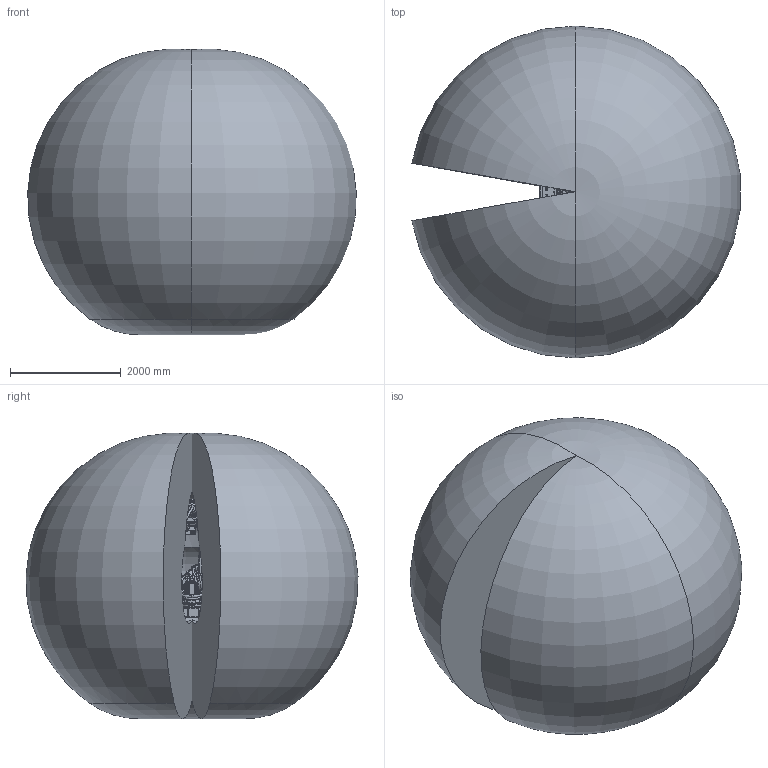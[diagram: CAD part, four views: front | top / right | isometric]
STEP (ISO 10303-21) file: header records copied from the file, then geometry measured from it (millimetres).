
FILE_DESCRIPTION (( 'STEP AP214' ), '1' );
FILE_NAME ('IRB5720-MH3_125kg-300_OC_03_ASM.step', '2025-07-08T11:13:10', ( '' ), ( '' ), 'SwSTEP 2.0', 'SolidWorks 2024', '' );
FILE_SCHEMA (( 'AUTOMOTIVE_DESIGN' ));
Length unit declared in the file: millimetre
Products named in the file (17): IRB5720-MH3_125kg-300_OC_03_ASM; IRB5720-MH3_125kg-300_OC_01_BASE_CAD; IRB5720-MH3_125kg-300_OC_01_LINK03a_CABLE; IRB5720-MH3_125kg-300_OmniCore_rev00_LINK01_CAD; IRB5720-MH3_125kg-300_OmniCore_rev00_LINK01m_CABLE; IRB5720-MH3_125kg-300_OmniCore_rev00_LINK02_CABLE; IRB5720-MH3_125kg-300_OmniCore_rev00_LINK04_CABLE; IRB5720-MH3_125kg-300_OmniCore_rev01_LINK03_CAD; IRB5720-MH3_125kg-300_OmniCore_rev00_LINK03m_CABLE; IRB5720-MH3_125kg-300_OmniCore_rev00_LINK01_CABLE; IRB5720-MH3_125kg-300_OmniCore_rev00_LINK05_CAD; IRB5720-MH3_125kg-300_OmniCore_rev00_LINK04_CAD; IRB5720-MH3_125kg-300_OmniCore_rev00_Working-space; IRB5720-MH3_125kg-300_OmniCore_rev00_LINK02m_CABLE; IRB5720-MH3_125kg-300_OC_02_LINK03b_CABLE; IRB5720-MH3_125kg-300_OmniCore_rev00_LINK06_CAD; IRB5720-MH3_125kg-300_OmniCore_rev00_LINK02_CAD
Assembly tree (16 placements, depth 2):
  IRB5720-MH3_125kg-300_OC_03_ASM
    IRB5720-MH3_125kg-300_OC_01_BASE_CAD
    IRB5720-MH3_125kg-300_OmniCore_rev00_LINK01_CAD
    IRB5720-MH3_125kg-300_OmniCore_rev00_LINK02_CAD
    IRB5720-MH3_125kg-300_OmniCore_rev01_LINK03_CAD
    IRB5720-MH3_125kg-300_OmniCore_rev00_LINK04_CAD
    IRB5720-MH3_125kg-300_OmniCore_rev00_LINK05_CAD
    IRB5720-MH3_125kg-300_OmniCore_rev00_LINK06_CAD
    IRB5720-MH3_125kg-300_OmniCore_rev00_LINK01m_CABLE
    IRB5720-MH3_125kg-300_OmniCore_rev00_LINK02m_CABLE
    IRB5720-MH3_125kg-300_OmniCore_rev00_LINK03m_CABLE
    IRB5720-MH3_125kg-300_OmniCore_rev00_LINK01_CABLE
    IRB5720-MH3_125kg-300_OmniCore_rev00_LINK02_CABLE
    IRB5720-MH3_125kg-300_OC_01_LINK03a_CABLE
    IRB5720-MH3_125kg-300_OmniCore_rev00_LINK04_CABLE
    IRB5720-MH3_125kg-300_OmniCore_rev00_Working-space
    IRB5720-MH3_125kg-300_OC_02_LINK03b_CABLE
Bounding box: 5935.91 x 5997.9 x 5154.8 mm (x, y, z)
Volume: 94008592253.4 mm3; surface area: 148803382.5 mm2
Topology: 23 solids, 56 shells, 7495 faces, 19042 edges, 12231 vertices
Faces by surface type: plane 3661, cylinder 2212, cone 895, bspline 537, torus 160, sphere 30
Entity records: 346213 total; most frequent: CARTESIAN_POINT 142672, ORIENTED_EDGE 37764, DIRECTION 34825, EDGE_CURVE 18882, AXIS2_PLACEMENT_3D 12583, VERTEX_POINT 12232, LINE 9659, VECTOR 9659
